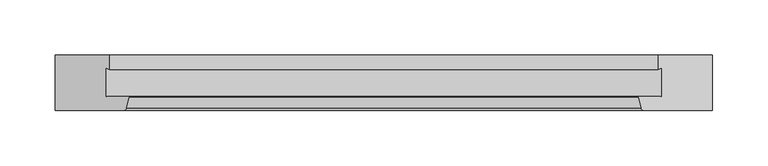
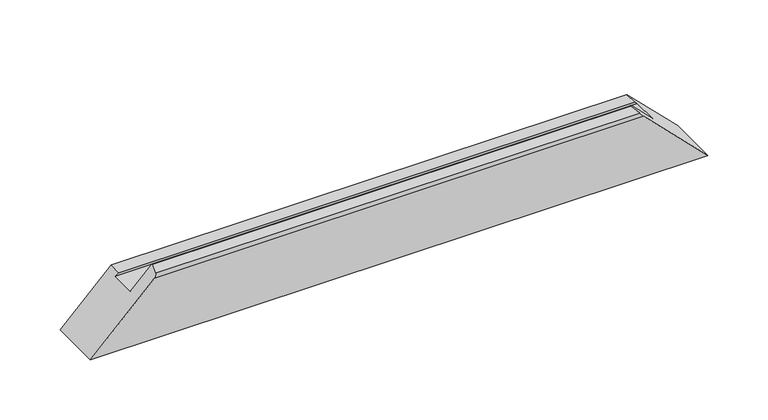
"""IFC4 building model written with IfcOpenShell, lengths in millimetres: proxy geometry, Weiku - Montante - Caixilho 02.2.01.005 : Weiku - Montante - Caixilho 02.2.01.005."""

from ifc_helpers import new_model, si_unit, frame, origin, place, context, project, spatial, ellipse_curve, source, transform, mapped, element, save
from ifc_brep_helpers import plane_surface, cylinder_surface, advanced_brep


def generic_models_3dde5268(model_context):
    return source(origin(), model_context, "Body", "AdvancedBrep", [
        advanced_brep(
        [(-251.0, 12.5, 46.0), (-230.8909676, 12.5, 66.1090324), (230.8909676, 12.5, 66.1090324), (251.0, 12.5, 46.0), (-251.0, 37.8314286, 46.0), (251.0, 37.8314286, 46.0), (-248.0, 37.027581, 49.0), (248.0, 37.027581, 49.0), (-248.0, 50.0, 49.0), (248.0, 50.0, 49.0), (297.0, 50.0, 0.0), (-297.0, 50.0, 0.0), (297.0, 0.0, 0.0), (-297.0, 0.0, 0.0), (235.4997332, 0.0, 61.5002668), (-235.4997332, 0.0, 61.5002668), (-230.118227, 11.4929448, 66.881773), (-232.6019557, 2.2235429, 64.3980443), (232.6019557, 2.2235429, 64.3980443), (230.118227, 11.4929448, 66.881773)],
        [
            (0, 1),
            (1, 2),
            (2, 3),
            (3, 0),
            (4, 0),
            (3, 5),
            (5, 4),
            (6, 4),
            (5, 7),
            (7, 6),
            (8, 6),
            (7, 9),
            (9, 8),
            (10, 11),
            (11, 8),
            (9, 10),
            (10, 12),
            (12, 13),
            (13, 11),
            (12, 14),
            (14, 15),
            (15, 13),
            (16, 17),
            (17, 18),
            (18, 19),
            (19, 16),
            (15, 17, ellipse_curve(frame((-235.4997332, 3.0, 61.5002668), z_axis=(-0.7071067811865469, 0.0, 0.7071067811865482), x_axis=(-0.707106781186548, 0.0, -0.7071067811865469)), 4.2426407, 3.0)),
            (16, 1, ellipse_curve(frame((-230.8909676, 11.7, 66.1090324), z_axis=(-0.7071067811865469, 0.0, 0.7071067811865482), x_axis=(-0.707106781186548, 0.0, -0.7071067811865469)), 1.1313708, 0.8)),
            (2, 19, ellipse_curve(frame((230.8909676, 11.7, 66.1090324), z_axis=(0.707106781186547, 0.0, 0.707106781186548), x_axis=(-0.7071067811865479, 0.0, 0.707106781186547)), 1.1313708, 0.8)),
            (18, 14, ellipse_curve(frame((235.4997332, 3.0, 61.5002668), z_axis=(0.707106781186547, 0.0, 0.707106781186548), x_axis=(-0.7071067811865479, 0.0, 0.707106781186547)), 4.2426407, 3.0)),
        ],
        [
            plane_surface(frame((-297.0, 12.5, 66.1090324), z_axis=(0.0, 1.0, 0.0), x_axis=(1.0, 0.0, 0.0))),
            plane_surface(frame((-297.0, 12.5, 46.0), z_axis=(0.0, 0.0, 1.0), x_axis=(1.0, 0.0, 0.0))),
            plane_surface(frame((-297.0, 37.8314286, 46.0), z_axis=(0.0, -0.9659258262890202, -0.2588190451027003), x_axis=(1.0, 0.0, 0.0))),
            plane_surface(frame((-297.0, 37.027581, 49.0), z_axis=(0.0, 0.0, 1.0), x_axis=(1.0, 0.0, 0.0))),
            plane_surface(frame((-297.0, 50.0, 49.0), z_axis=(0.0, 1.0, 0.0), x_axis=(1.0, 0.0, 0.0))),
            plane_surface(frame((-297.0, 50.0, 0.0), z_axis=(0.0, 0.0, -1.0), x_axis=(1.0, 0.0, 0.0))),
            plane_surface(frame((-297.0, 0.0, 0.0), z_axis=(0.0, -1.0, 0.0), x_axis=(1.0, 0.0, 0.0))),
            plane_surface(frame((-297.0, 2.2235429, 64.3980443), z_axis=(0.0, -0.2588190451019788, 0.9659258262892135), x_axis=(1.0, 0.0, 0.0))),
            plane_surface(frame((-367.0, -15.0, -70.0), z_axis=(-0.7071067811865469, 0.0, 0.7071067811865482), x_axis=(0.0, 1.0, 0.0))),
            plane_surface(frame((227.0, -15.0, 70.0), z_axis=(0.707106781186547, 0.0, 0.707106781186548), x_axis=(0.0, 1.0, 0.0))),
            cylinder_surface(frame((-297.0, 11.7, 66.1090324), z_axis=(-1.0, 0.0, 0.0), x_axis=(0.0, 1.0, 0.0)), 0.8),
            cylinder_surface(frame((-297.0, 3.0, 61.5002668), z_axis=(-1.0, 0.0, 0.0), x_axis=(0.0, 1.0, 0.0)), 3.0),
        ],
        [
            (0, [[1, 2, 3, 4]]),
            (1, [[5, -4, 6, 7]]),
            (2, [[8, -7, 9, 10]]),
            (3, [[11, -10, 12, 13]]),
            (4, [[14, 15, -13, 16]]),
            (5, [[-14, 17, 18, 19]]),
            (6, [[-18, 20, 21, 22]]),
            (7, [[23, 24, 25, 26]]),
            (8, [[-1, -5, -8, -11, -15, -19, -22, 27, -23, 28]]),
            (9, [[-3, 29, -25, 30, -20, -17, -16, -12, -9, -6]]),
            (10, [[-28, -26, -29, -2]]),
            (11, [[-27, -21, -30, -24]]),
        ],
    ),
    ])


if __name__ == "__main__":
    model = new_model("IFC4")
    model_context = context("Model", 3, world=origin())
    ifc_project = project(units=[si_unit("LENGTHUNIT", "METRE", prefix="MILLI")], contexts=[model_context])
    site = spatial("IfcSite", under=ifc_project)
    building = spatial("IfcBuilding", under=site)
    placement = place(None, origin())
    generic_models_shape = generic_models_3dde5268(model_context)
    element("IfcBuildingElementProxy", 1, Name="Weiku - Montante - Caixilho 02.2.01.005 : Weiku - Montante - Caixilho 02.2.01.005", ObjectType="Weiku - Montante - Caixilho 02.2.01.005 : Weiku - Montante - Caixilho 02.2.01.005", at=placement, inside=building, context=model_context, shape_type="MappedRepresentation", body=[
        mapped(generic_models_shape, transform((0.0, 0.0, 0.0), x_axis=(1.0, 0.0, 0.0), y_axis=(0.0, 1.0, 0.0), z_axis=(0.0, 0.0, 1.0))),
    ])
    save(model, "model.ifc")
